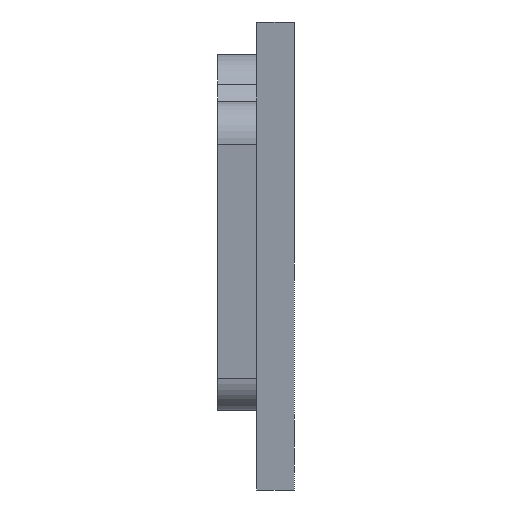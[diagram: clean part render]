
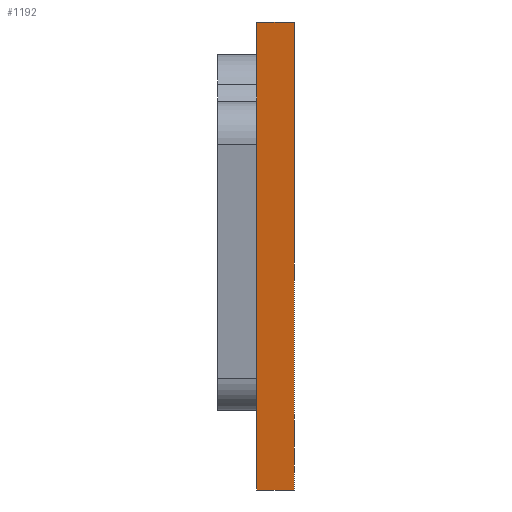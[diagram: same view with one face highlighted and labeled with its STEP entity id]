
A CAD part, left-side view. The second image highlights one B-rep face of the part: STEP entity #1192.
In plain terms, the highlighted planar face has unit normal (-0.99, 0, -0.139).
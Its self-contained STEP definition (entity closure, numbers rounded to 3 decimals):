
#22 = VERTEX_POINT ( 'NONE', #2194 ) ;
#24 = CARTESIAN_POINT ( 'NONE',  ( -27.439, -8.75, 25. ) ) ;
#47 = FACE_OUTER_BOUND ( 'NONE', #617, .T. ) ;
#183 = DIRECTION ( 'NONE',  ( -0.139, 0., 0.99 ) ) ;
#364 = CARTESIAN_POINT ( 'NONE',  ( -20.411, -8.75, -25. ) ) ;
#374 = VECTOR ( 'NONE', #183, 1000. ) ;
#617 = EDGE_LOOP ( 'NONE', ( #807, #2199, #1059, #1422 ) ) ;
#807 = ORIENTED_EDGE ( 'NONE', *, *, #2241, .F. ) ;
#848 = DIRECTION ( 'NONE',  ( 0., 1., 0. ) ) ;
#859 = VERTEX_POINT ( 'NONE', #364 ) ;
#899 = VECTOR ( 'NONE', #848, 1000. ) ;
#925 = DIRECTION ( 'NONE',  ( 0., 1., 0. ) ) ;
#971 = LINE ( 'NONE', #2057, #374 ) ;
#979 = VECTOR ( 'NONE', #925, 1000. ) ;
#1039 = CARTESIAN_POINT ( 'NONE',  ( -27.439, -8.75, 25. ) ) ;
#1059 = ORIENTED_EDGE ( 'NONE', *, *, #1270, .T. ) ;
#1094 = DIRECTION ( 'NONE',  ( -0.139, 0., 0.99 ) ) ;
#1129 = CARTESIAN_POINT ( 'NONE',  ( -20.411, -8.75, -25. ) ) ;
#1192 = ADVANCED_FACE ( 'NONE', ( #47 ), #1264, .T. ) ;
#1232 = CARTESIAN_POINT ( 'NONE',  ( -27.439, -8.75, 25. ) ) ;
#1261 = LINE ( 'NONE', #24, #899 ) ;
#1264 = PLANE ( 'NONE',  #2512 ) ;
#1270 = EDGE_CURVE ( 'NONE', #859, #22, #2066, .T. ) ;
#1422 = ORIENTED_EDGE ( 'NONE', *, *, #1926, .T. ) ;
#1500 = DIRECTION ( 'NONE',  ( -0.99, 0., -0.139 ) ) ;
#1627 = VECTOR ( 'NONE', #1877, 1000. ) ;
#1775 = LINE ( 'NONE', #1129, #979 ) ;
#1877 = DIRECTION ( 'NONE',  ( -0.139, 0., 0.99 ) ) ;
#1926 = EDGE_CURVE ( 'NONE', #22, #2430, #1261, .T. ) ;
#1937 = CARTESIAN_POINT ( 'NONE',  ( -27.439, -4.75, 25. ) ) ;
#1993 = EDGE_CURVE ( 'NONE', #859, #2099, #1775, .T. ) ;
#2057 = CARTESIAN_POINT ( 'NONE',  ( -27.439, -4.75, 25. ) ) ;
#2066 = LINE ( 'NONE', #1039, #1627 ) ;
#2099 = VERTEX_POINT ( 'NONE', #2579 ) ;
#2194 = CARTESIAN_POINT ( 'NONE',  ( -27.439, -8.75, 25. ) ) ;
#2199 = ORIENTED_EDGE ( 'NONE', *, *, #1993, .F. ) ;
#2241 = EDGE_CURVE ( 'NONE', #2099, #2430, #971, .T. ) ;
#2430 = VERTEX_POINT ( 'NONE', #1937 ) ;
#2512 = AXIS2_PLACEMENT_3D ( 'NONE', #1232, #1500, #1094 ) ;
#2579 = CARTESIAN_POINT ( 'NONE',  ( -20.411, -4.75, -25. ) ) ;
